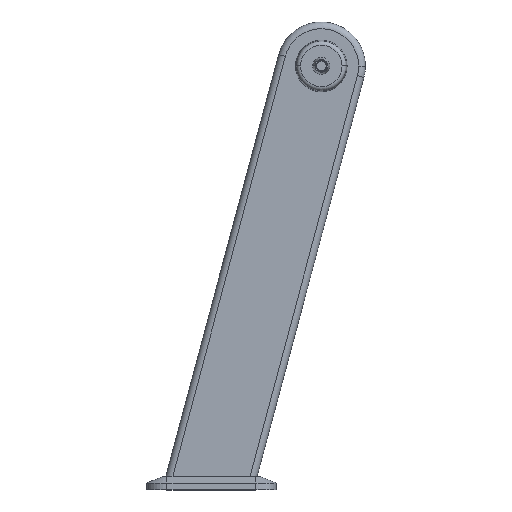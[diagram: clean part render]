
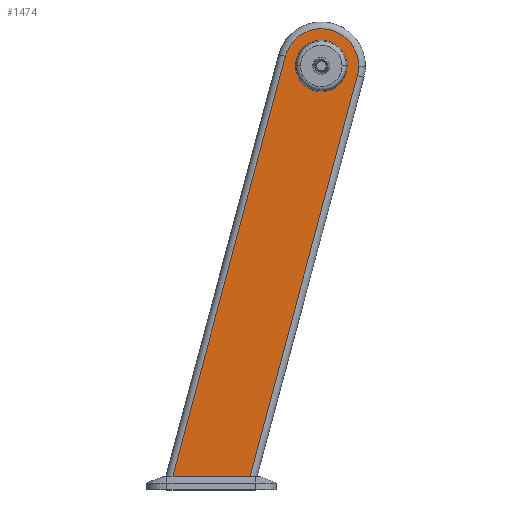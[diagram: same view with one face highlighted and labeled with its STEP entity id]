
A CAD part, top view. The second image highlights one B-rep face of the part: STEP entity #1474.
In plain terms, the highlighted planar face has unit normal (0, 0, 1).
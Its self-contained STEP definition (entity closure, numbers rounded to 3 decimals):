
#7 = DIRECTION ( 'NONE',  ( 0., 0., 1. ) ) ;
#65 = ORIENTED_EDGE ( 'NONE', *, *, #2453, .T. ) ;
#161 = AXIS2_PLACEMENT_3D ( 'NONE', #1436, #3220, #1700 ) ;
#163 = DIRECTION ( 'NONE',  ( 0., 0., 1. ) ) ;
#289 = CARTESIAN_POINT ( 'NONE',  ( 0., 0., 31.25 ) ) ;
#298 = DIRECTION ( 'NONE',  ( 1., 0., 0. ) ) ;
#353 = ORIENTED_EDGE ( 'NONE', *, *, #453, .T. ) ;
#397 = CIRCLE ( 'NONE', #2945, 38. ) ;
#403 = ORIENTED_EDGE ( 'NONE', *, *, #1581, .F. ) ;
#453 = EDGE_CURVE ( 'NONE', #3313, #1319, #2457, .T. ) ;
#467 = CARTESIAN_POINT ( 'NONE',  ( -219.049, -605., 31.25 ) ) ;
#472 = CARTESIAN_POINT ( 'NONE',  ( -225.102, -627.588, 31.25 ) ) ;
#528 = AXIS2_PLACEMENT_3D ( 'NONE', #289, #1823, #298 ) ;
#621 = FACE_OUTER_BOUND ( 'NONE', #1690, .T. ) ;
#669 = VERTEX_POINT ( 'NONE', #1547 ) ;
#733 = ORIENTED_EDGE ( 'NONE', *, *, #1371, .T. ) ;
#737 = EDGE_LOOP ( 'NONE', ( #1775, #403 ) ) ;
#809 = CARTESIAN_POINT ( 'NONE',  ( 0., 0., 31.25 ) ) ;
#939 = CARTESIAN_POINT ( 'NONE',  ( -105.169, -605., 31.25 ) ) ;
#1035 = VECTOR ( 'NONE', #1743, 1000. ) ;
#1076 = VERTEX_POINT ( 'NONE', #1104 ) ;
#1077 = DIRECTION ( 'NONE',  ( 1., 0., 0. ) ) ;
#1086 = VECTOR ( 'NONE', #2063, 1000. ) ;
#1104 = CARTESIAN_POINT ( 'NONE',  ( 55., 0., 31.25 ) ) ;
#1108 = CARTESIAN_POINT ( 'NONE',  ( -38., 0., 31.25 ) ) ;
#1113 = ORIENTED_EDGE ( 'NONE', *, *, #2671, .T. ) ;
#1133 = VECTOR ( 'NONE', #1147, 1000. ) ;
#1147 = DIRECTION ( 'NONE',  ( 0.259, 0.966, 0. ) ) ;
#1319 = VERTEX_POINT ( 'NONE', #467 ) ;
#1371 = EDGE_CURVE ( 'NONE', #1076, #3313, #2136, .T. ) ;
#1436 = CARTESIAN_POINT ( 'NONE',  ( 0., 0., 31.25 ) ) ;
#1474 = ADVANCED_FACE ( 'NONE', ( #621, #2650 ), #1565, .T. ) ;
#1485 = CIRCLE ( 'NONE', #2411, 38. ) ;
#1533 = CARTESIAN_POINT ( 'NONE',  ( 0., 0., 31.25 ) ) ;
#1547 = CARTESIAN_POINT ( 'NONE',  ( 53.126, -14.235, 31.25 ) ) ;
#1565 = PLANE ( 'NONE',  #528 ) ;
#1581 = EDGE_CURVE ( 'NONE', #2794, #3246, #1485, .T. ) ;
#1601 = VERTEX_POINT ( 'NONE', #939 ) ;
#1690 = EDGE_LOOP ( 'NONE', ( #65, #2473, #733, #353, #1113 ) ) ;
#1696 = CARTESIAN_POINT ( 'NONE',  ( 0., 0., 31.25 ) ) ;
#1700 = DIRECTION ( 'NONE',  ( 1., 0., 0. ) ) ;
#1743 = DIRECTION ( 'NONE',  ( -0.259, -0.966, 0. ) ) ;
#1775 = ORIENTED_EDGE ( 'NONE', *, *, #2704, .F. ) ;
#1791 = DIRECTION ( 'NONE',  ( 1., 0., 0. ) ) ;
#1813 = CARTESIAN_POINT ( 'NONE',  ( 0., -605., 31.25 ) ) ;
#1823 = DIRECTION ( 'NONE',  ( 0., 0., 1. ) ) ;
#1835 = LINE ( 'NONE', #1813, #1086 ) ;
#1943 = DIRECTION ( 'NONE',  ( 1., 0., 0. ) ) ;
#1947 = CARTESIAN_POINT ( 'NONE',  ( 38., 0., 31.25 ) ) ;
#2063 = DIRECTION ( 'NONE',  ( 1., 0., 0. ) ) ;
#2136 = CIRCLE ( 'NONE', #2295, 55. ) ;
#2270 = CIRCLE ( 'NONE', #161, 55. ) ;
#2295 = AXIS2_PLACEMENT_3D ( 'NONE', #1533, #7, #1791 ) ;
#2411 = AXIS2_PLACEMENT_3D ( 'NONE', #1696, #163, #1943 ) ;
#2453 = EDGE_CURVE ( 'NONE', #1601, #669, #3154, .T. ) ;
#2457 = LINE ( 'NONE', #472, #1035 ) ;
#2458 = CARTESIAN_POINT ( 'NONE',  ( -53.126, 14.235, 31.25 ) ) ;
#2473 = ORIENTED_EDGE ( 'NONE', *, *, #3224, .T. ) ;
#2584 = DIRECTION ( 'NONE',  ( 0., 0., 1. ) ) ;
#2650 = FACE_BOUND ( 'NONE', #737, .T. ) ;
#2671 = EDGE_CURVE ( 'NONE', #1319, #1601, #1835, .T. ) ;
#2704 = EDGE_CURVE ( 'NONE', #3246, #2794, #397, .T. ) ;
#2794 = VERTEX_POINT ( 'NONE', #1108 ) ;
#2929 = CARTESIAN_POINT ( 'NONE',  ( 53.126, -14.235, 31.25 ) ) ;
#2945 = AXIS2_PLACEMENT_3D ( 'NONE', #809, #2584, #1077 ) ;
#3154 = LINE ( 'NONE', #2929, #1133 ) ;
#3220 = DIRECTION ( 'NONE',  ( 0., 0., 1. ) ) ;
#3224 = EDGE_CURVE ( 'NONE', #669, #1076, #2270, .T. ) ;
#3246 = VERTEX_POINT ( 'NONE', #1947 ) ;
#3313 = VERTEX_POINT ( 'NONE', #2458 ) ;
